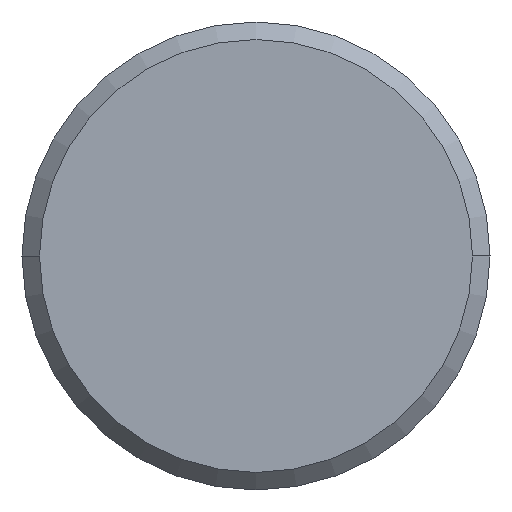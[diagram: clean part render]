
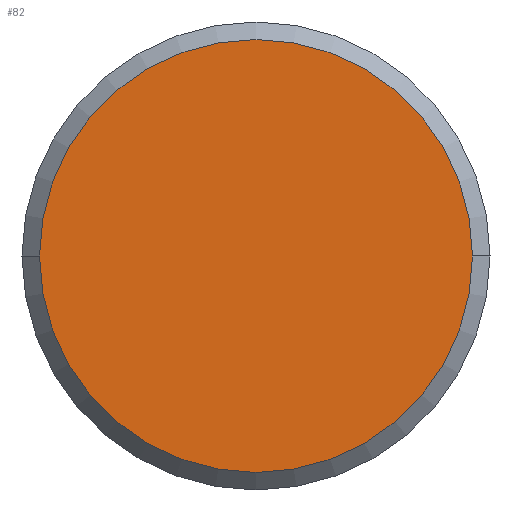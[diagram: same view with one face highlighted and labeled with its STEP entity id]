
A CAD part, left-side view. The second image highlights one B-rep face of the part: STEP entity #82.
In plain terms, the highlighted planar face has unit normal (-1, 0, 0).
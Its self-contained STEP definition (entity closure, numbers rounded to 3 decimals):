
#81 = CIRCLE ( 'NONE', #452, 3.7 ) ;
#82 = ADVANCED_FACE ( 'NONE', ( #292 ), #217, .T. ) ;
#110 = VERTEX_POINT ( 'NONE', #141 ) ;
#141 = CARTESIAN_POINT ( 'NONE',  ( -38., 3.7, 0. ) ) ;
#166 = AXIS2_PLACEMENT_3D ( 'NONE', #365, #214, #330 ) ;
#188 = CARTESIAN_POINT ( 'NONE',  ( -38., 0., 0. ) ) ;
#214 = DIRECTION ( 'NONE',  ( -1., 0., 0. ) ) ;
#217 = PLANE ( 'NONE',  #166 ) ;
#262 = DIRECTION ( 'NONE',  ( 0., 1., 0. ) ) ;
#292 = FACE_OUTER_BOUND ( 'NONE', #345, .T. ) ;
#308 = DIRECTION ( 'NONE',  ( 0., 1., 0. ) ) ;
#309 = ORIENTED_EDGE ( 'NONE', *, *, #331, .F. ) ;
#311 = DIRECTION ( 'NONE',  ( 1., 0., 0. ) ) ;
#314 = VERTEX_POINT ( 'NONE', #404 ) ;
#330 = DIRECTION ( 'NONE',  ( 0., 0., 1. ) ) ;
#331 = EDGE_CURVE ( 'NONE', #314, #110, #81, .T. ) ;
#345 = EDGE_LOOP ( 'NONE', ( #351, #309 ) ) ;
#351 = ORIENTED_EDGE ( 'NONE', *, *, #403, .F. ) ;
#355 = CARTESIAN_POINT ( 'NONE',  ( -38., 0., 0. ) ) ;
#360 = CIRCLE ( 'NONE', #493, 3.7 ) ;
#365 = CARTESIAN_POINT ( 'NONE',  ( -38., 1.85, 0. ) ) ;
#403 = EDGE_CURVE ( 'NONE', #110, #314, #360, .T. ) ;
#404 = CARTESIAN_POINT ( 'NONE',  ( -38., -3.7, 0. ) ) ;
#422 = DIRECTION ( 'NONE',  ( 1., 0., 0. ) ) ;
#452 = AXIS2_PLACEMENT_3D ( 'NONE', #355, #311, #262 ) ;
#493 = AXIS2_PLACEMENT_3D ( 'NONE', #188, #422, #308 ) ;
